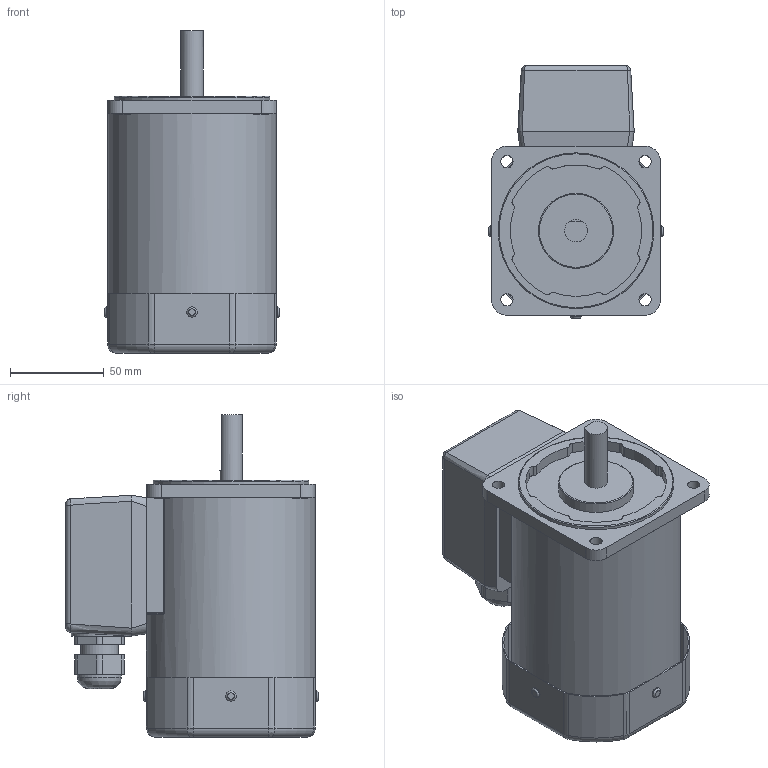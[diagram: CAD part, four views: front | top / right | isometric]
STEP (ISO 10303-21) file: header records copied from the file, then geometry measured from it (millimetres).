
FILE_DESCRIPTION((''),'2;1');
FILE_NAME('E:\2공장-도면\3D\표준형 3D(민규)\step file\K9IS150Fㅁ-T.stp','2014-11-13T10:17:40',('AHN'),(''),'Autodesk Inventor 2012','Autodesk Inventor 2012','');
FILE_SCHEMA(('CONFIG_CONTROL_DESIGN'));
Length unit declared in the file: millimetre
Products named in the file (3): K9IS150Fㅁ-T; K9IS90Fㅁ; TERMINAL BOX
Assembly tree (2 placements, depth 2):
  K9IS150Fㅁ-T
    K9IS90Fㅁ
    TERMINAL BOX
Bounding box: 93 x 134.5 x 172 mm (x, y, z)
Volume: 991204.5 mm3; surface area: 105756 mm2
Topology: 2 solids, 8 shells, 323 faces, 773 edges, 470 vertices
Faces by surface type: cylinder 151, plane 103, torus 48, bspline 21
Full cylindrical faces by diameter (mm): 5.5 x4, 6.5 x4, 8 x4, 12 x1, 20 x1, 23.5 x1, 40 x1, 83 x1, 90 x1
Entity records: 10575 total; most frequent: CARTESIAN_POINT 3085, DIRECTION 1584, ORIENTED_EDGE 1484, EDGE_CURVE 742, AXIS2_PLACEMENT_3D 623, VERTEX_POINT 466, EDGE_LOOP 396, VECTOR 338
